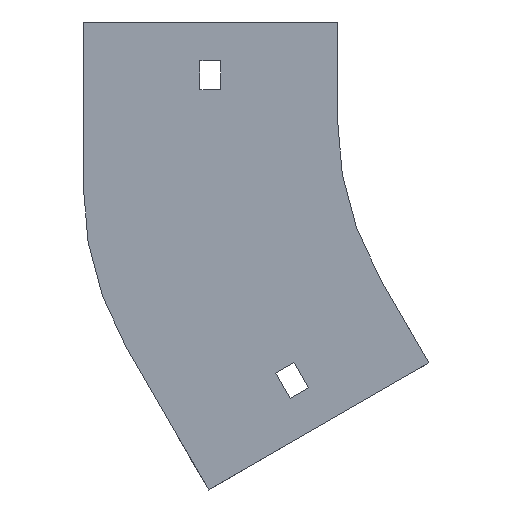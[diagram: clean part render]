
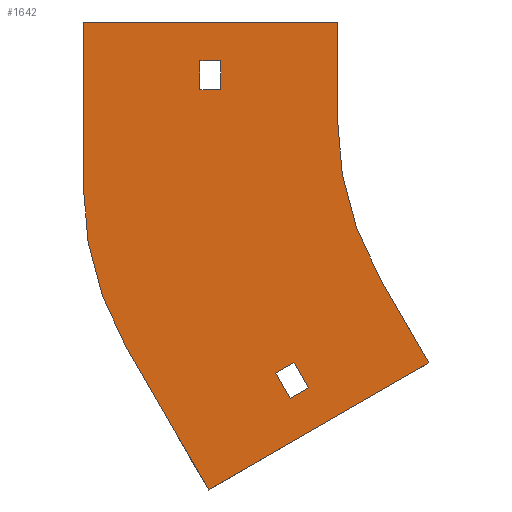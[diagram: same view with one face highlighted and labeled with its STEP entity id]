
A CAD part, front view. The second image highlights one B-rep face of the part: STEP entity #1642.
In plain terms, the highlighted planar face has unit normal (0, -1, 0).
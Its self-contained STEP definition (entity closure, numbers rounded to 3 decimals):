
#9 = VECTOR ( 'NONE', #220, 1000. ) ;
#13 = DIRECTION ( 'NONE',  ( 0., -1., 0. ) ) ;
#36 = LINE ( 'NONE', #1265, #566 ) ;
#39 = CARTESIAN_POINT ( 'NONE',  ( -86.603, 0., -50. ) ) ;
#45 = EDGE_CURVE ( 'NONE', #1564, #536, #1543, .T. ) ;
#49 = CARTESIAN_POINT ( 'NONE',  ( -142.75, 0., 18. ) ) ;
#61 = CARTESIAN_POINT ( 'NONE',  ( -140.019, 0., -115.481 ) ) ;
#79 = VERTEX_POINT ( 'NONE', #49 ) ;
#83 = CARTESIAN_POINT ( 'NONE',  ( -119.125, 0., -79.169 ) ) ;
#88 = EDGE_CURVE ( 'NONE', #1526, #1726, #1262, .T. ) ;
#104 = CARTESIAN_POINT ( 'NONE',  ( -79., 0., -21.168 ) ) ;
#144 = EDGE_LOOP ( 'NONE', ( #367, #570, #1924, #1520 ) ) ;
#157 = AXIS2_PLACEMENT_3D ( 'NONE', #1496, #13, #915 ) ;
#159 = VECTOR ( 'NONE', #644, 1000. ) ;
#176 = EDGE_CURVE ( 'NONE', #536, #1670, #419, .T. ) ;
#220 = DIRECTION ( 'NONE',  ( 0., 0., 1. ) ) ;
#222 = PLANE ( 'NONE',  #1380 ) ;
#231 = LINE ( 'NONE', #262, #685 ) ;
#240 = CARTESIAN_POINT ( 'NONE',  ( -179., 0., 30. ) ) ;
#243 = EDGE_CURVE ( 'NONE', #1319, #1564, #1244, .T. ) ;
#262 = CARTESIAN_POINT ( 'NONE',  ( -136.25, 0., 9. ) ) ;
#307 = VERTEX_POINT ( 'NONE', #1787 ) ;
#347 = DIRECTION ( 'NONE',  ( -0.866, 0., -0.5 ) ) ;
#350 = DIRECTION ( 'NONE',  ( -1., 0., 0. ) ) ;
#353 = CARTESIAN_POINT ( 'NONE',  ( -113.496, 0., -75.919 ) ) ;
#362 = DIRECTION ( 'NONE',  ( 1., 0., 0. ) ) ;
#367 = ORIENTED_EDGE ( 'NONE', *, *, #602, .F. ) ;
#368 = FACE_BOUND ( 'NONE', #534, .T. ) ;
#370 = CARTESIAN_POINT ( 'NONE',  ( -140.019, 0., -115.481 ) ) ;
#377 = VERTEX_POINT ( 'NONE', #761 ) ;
#378 = CARTESIAN_POINT ( 'NONE',  ( -142.75, 0., 9. ) ) ;
#380 = CARTESIAN_POINT ( 'NONE',  ( -108.996, 0., -83.713 ) ) ;
#384 = VERTEX_POINT ( 'NONE', #515 ) ;
#391 = VECTOR ( 'NONE', #1600, 1000. ) ;
#419 = LINE ( 'NONE', #240, #391 ) ;
#420 = ORIENTED_EDGE ( 'NONE', *, *, #1668, .T. ) ;
#425 = EDGE_CURVE ( 'NONE', #525, #307, #1383, .T. ) ;
#446 = VERTEX_POINT ( 'NONE', #1565 ) ;
#486 = ORIENTED_EDGE ( 'NONE', *, *, #45, .F. ) ;
#501 = EDGE_CURVE ( 'NONE', #377, #1678, #1252, .T. ) ;
#515 = CARTESIAN_POINT ( 'NONE',  ( -136.25, 0., 18. ) ) ;
#525 = VERTEX_POINT ( 'NONE', #1739 ) ;
#534 = EDGE_LOOP ( 'NONE', ( #1896, #1948, #420, #1729 ) ) ;
#536 = VERTEX_POINT ( 'NONE', #845 ) ;
#539 = CARTESIAN_POINT ( 'NONE',  ( -165.603, 0., -71.168 ) ) ;
#563 = CARTESIAN_POINT ( 'NONE',  ( -142.75, 0., 9. ) ) ;
#566 = VECTOR ( 'NONE', #347, 1000. ) ;
#570 = ORIENTED_EDGE ( 'NONE', *, *, #1747, .F. ) ;
#571 = CARTESIAN_POINT ( 'NONE',  ( -113.496, 0., -75.919 ) ) ;
#591 = ORIENTED_EDGE ( 'NONE', *, *, #1232, .F. ) ;
#602 = EDGE_CURVE ( 'NONE', #446, #1274, #1773, .T. ) ;
#644 = DIRECTION ( 'NONE',  ( 0., 0., -1. ) ) ;
#657 = DIRECTION ( 'NONE',  ( -0.866, 0., -0.5 ) ) ;
#658 = CIRCLE ( 'NONE', #157, 100. ) ;
#675 = FACE_BOUND ( 'NONE', #144, .T. ) ;
#685 = VECTOR ( 'NONE', #1420, 1000. ) ;
#700 = DIRECTION ( 'NONE',  ( 0., 1., 0. ) ) ;
#761 = CARTESIAN_POINT ( 'NONE',  ( -136.25, 0., 9. ) ) ;
#790 = CARTESIAN_POINT ( 'NONE',  ( -179., 0., -21.168 ) ) ;
#800 = VECTOR ( 'NONE', #350, 1000. ) ;
#845 = CARTESIAN_POINT ( 'NONE',  ( -179., 0., 30. ) ) ;
#915 = DIRECTION ( 'NONE',  ( 0., 0., -1. ) ) ;
#935 = LINE ( 'NONE', #61, #1121 ) ;
#962 = LINE ( 'NONE', #1540, #1225 ) ;
#967 = VECTOR ( 'NONE', #1771, 1000. ) ;
#1000 = VECTOR ( 'NONE', #1758, 1000. ) ;
#1033 = CARTESIAN_POINT ( 'NONE',  ( -119.125, 0., -79.169 ) ) ;
#1043 = CARTESIAN_POINT ( 'NONE',  ( -100., 0., 0. ) ) ;
#1079 = CARTESIAN_POINT ( 'NONE',  ( -100., 0., 30. ) ) ;
#1103 = CARTESIAN_POINT ( 'NONE',  ( -179., 0., -21.168 ) ) ;
#1112 = DIRECTION ( 'NONE',  ( 0.5, 0., -0.866 ) ) ;
#1114 = VECTOR ( 'NONE', #1447, 1000. ) ;
#1116 = EDGE_CURVE ( 'NONE', #1670, #1757, #1512, .T. ) ;
#1121 = VECTOR ( 'NONE', #1562, 1000. ) ;
#1134 = LINE ( 'NONE', #571, #1000 ) ;
#1146 = CARTESIAN_POINT ( 'NONE',  ( 0., 0., 0. ) ) ;
#1156 = EDGE_CURVE ( 'NONE', #79, #384, #962, .T. ) ;
#1164 = ORIENTED_EDGE ( 'NONE', *, *, #1511, .F. ) ;
#1179 = EDGE_LOOP ( 'NONE', ( #1659, #486, #1584, #1164, #591, #1581, #1587, #1341 ) ) ;
#1225 = VECTOR ( 'NONE', #362, 1000. ) ;
#1232 = EDGE_CURVE ( 'NONE', #307, #1241, #36, .T. ) ;
#1241 = VERTEX_POINT ( 'NONE', #370 ) ;
#1244 = CIRCLE ( 'NONE', #1495, 100. ) ;
#1252 = LINE ( 'NONE', #1688, #800 ) ;
#1262 = LINE ( 'NONE', #83, #1901 ) ;
#1265 = CARTESIAN_POINT ( 'NONE',  ( -71.603, 0., -75.981 ) ) ;
#1271 = DIRECTION ( 'NONE',  ( 0., -1., 0. ) ) ;
#1274 = VERTEX_POINT ( 'NONE', #380 ) ;
#1289 = CARTESIAN_POINT ( 'NONE',  ( -119.125, 0., -79.169 ) ) ;
#1319 = VERTEX_POINT ( 'NONE', #539 ) ;
#1339 = EDGE_CURVE ( 'NONE', #1678, #79, #1624, .T. ) ;
#1341 = ORIENTED_EDGE ( 'NONE', *, *, #1116, .F. ) ;
#1344 = LINE ( 'NONE', #1033, #1790 ) ;
#1380 = AXIS2_PLACEMENT_3D ( 'NONE', #1146, #1271, #1463 ) ;
#1383 = LINE ( 'NONE', #39, #1462 ) ;
#1420 = DIRECTION ( 'NONE',  ( 0., 0., -1. ) ) ;
#1430 = EDGE_CURVE ( 'NONE', #1757, #525, #658, .T. ) ;
#1447 = DIRECTION ( 'NONE',  ( 0.866, 0., 0.5 ) ) ;
#1462 = VECTOR ( 'NONE', #1112, 1000. ) ;
#1463 = DIRECTION ( 'NONE',  ( 0., 0., -1. ) ) ;
#1495 = AXIS2_PLACEMENT_3D ( 'NONE', #104, #700, #1755 ) ;
#1496 = CARTESIAN_POINT ( 'NONE',  ( 0., 0., 0. ) ) ;
#1511 = EDGE_CURVE ( 'NONE', #1241, #1319, #935, .T. ) ;
#1512 = LINE ( 'NONE', #1079, #159 ) ;
#1520 = ORIENTED_EDGE ( 'NONE', *, *, #1716, .F. ) ;
#1526 = VERTEX_POINT ( 'NONE', #353 ) ;
#1540 = CARTESIAN_POINT ( 'NONE',  ( -142.75, 0., 18. ) ) ;
#1543 = LINE ( 'NONE', #790, #9 ) ;
#1562 = DIRECTION ( 'NONE',  ( -0.5, 0., 0.866 ) ) ;
#1564 = VERTEX_POINT ( 'NONE', #1103 ) ;
#1565 = CARTESIAN_POINT ( 'NONE',  ( -114.625, 0., -86.963 ) ) ;
#1577 = CARTESIAN_POINT ( 'NONE',  ( -114.625, 0., -86.963 ) ) ;
#1581 = ORIENTED_EDGE ( 'NONE', *, *, #425, .F. ) ;
#1584 = ORIENTED_EDGE ( 'NONE', *, *, #243, .F. ) ;
#1587 = ORIENTED_EDGE ( 'NONE', *, *, #1430, .F. ) ;
#1600 = DIRECTION ( 'NONE',  ( 1., 0., 0. ) ) ;
#1603 = FACE_OUTER_BOUND ( 'NONE', #1179, .T. ) ;
#1624 = LINE ( 'NONE', #563, #967 ) ;
#1642 = ADVANCED_FACE ( 'NONE', ( #368, #1603, #675 ), #222, .T. ) ;
#1651 = DIRECTION ( 'NONE',  ( 0.5, 0., -0.866 ) ) ;
#1659 = ORIENTED_EDGE ( 'NONE', *, *, #176, .F. ) ;
#1668 = EDGE_CURVE ( 'NONE', #384, #377, #231, .T. ) ;
#1670 = VERTEX_POINT ( 'NONE', #1878 ) ;
#1678 = VERTEX_POINT ( 'NONE', #378 ) ;
#1688 = CARTESIAN_POINT ( 'NONE',  ( -142.75, 0., 9. ) ) ;
#1716 = EDGE_CURVE ( 'NONE', #1274, #1526, #1134, .T. ) ;
#1726 = VERTEX_POINT ( 'NONE', #1289 ) ;
#1729 = ORIENTED_EDGE ( 'NONE', *, *, #501, .T. ) ;
#1739 = CARTESIAN_POINT ( 'NONE',  ( -86.603, 0., -50. ) ) ;
#1747 = EDGE_CURVE ( 'NONE', #1726, #446, #1344, .T. ) ;
#1755 = DIRECTION ( 'NONE',  ( 0., 0., 1. ) ) ;
#1757 = VERTEX_POINT ( 'NONE', #1043 ) ;
#1758 = DIRECTION ( 'NONE',  ( -0.5, 0., 0.866 ) ) ;
#1771 = DIRECTION ( 'NONE',  ( 0., 0., 1. ) ) ;
#1773 = LINE ( 'NONE', #1577, #1114 ) ;
#1787 = CARTESIAN_POINT ( 'NONE',  ( -71.603, 0., -75.981 ) ) ;
#1790 = VECTOR ( 'NONE', #1651, 1000. ) ;
#1878 = CARTESIAN_POINT ( 'NONE',  ( -100., 0., 30. ) ) ;
#1896 = ORIENTED_EDGE ( 'NONE', *, *, #1339, .T. ) ;
#1901 = VECTOR ( 'NONE', #657, 1000. ) ;
#1924 = ORIENTED_EDGE ( 'NONE', *, *, #88, .F. ) ;
#1948 = ORIENTED_EDGE ( 'NONE', *, *, #1156, .T. ) ;
